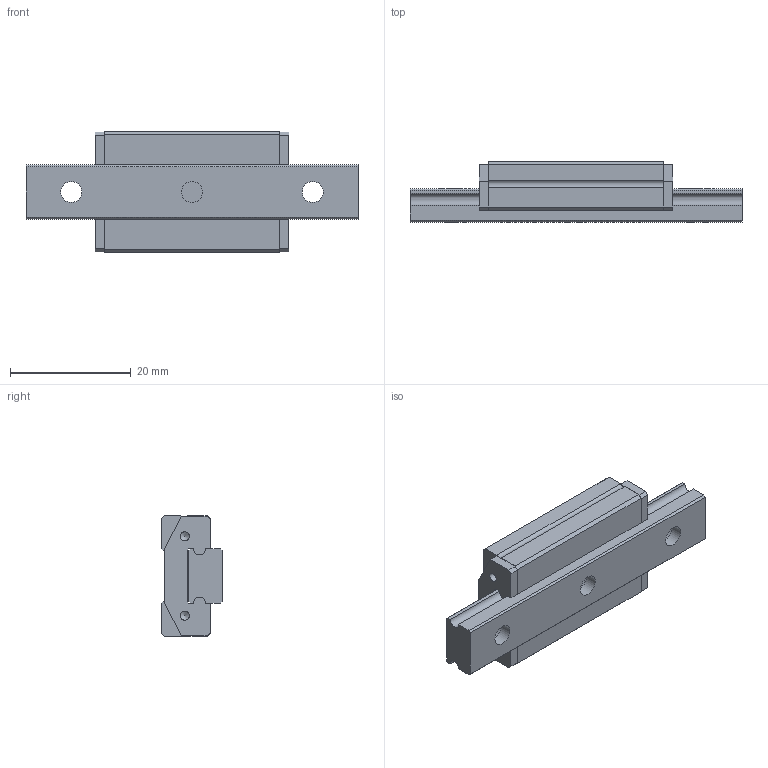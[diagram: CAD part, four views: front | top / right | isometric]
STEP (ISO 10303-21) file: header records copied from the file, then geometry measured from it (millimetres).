
FILE_DESCRIPTION(/* description */ ('STEP AP214'),/* implementation_level */ '2;1');
FILE_NAME(/* name */ 'Minirail 1MNN 9-55-7.5-7.5-G3-V0-(1)',/* time_stamp */ '2025-04-15T09:04:09+02:00',/* author */ ('License CC BY-ND 4.0'),/* organization */ ('CADENAS'),/* preprocessor_version */ 'ST-DEVELOPER v19.3',/* originating_system */ 'PARTsolutions',/* authorisation */ ' ');
FILE_SCHEMA (('AUTOMOTIVE_DESIGN {1 0 10303 214 3 1 1}'));
Length unit declared in the file: millimetre
Products named in the file (4): Minirail 1MNN 9-55-7.5-7.5-G3-V0-(1); Rail 1 MN9-55-7.5-7.5-G3-V0(1); Carriage-MNN9; Wiper-MN9
Assembly tree (4 placements, depth 2):
  Minirail 1MNN 9-55-7.5-7.5-G3-V0-(1)
    Rail 1 MN9-55-7.5-7.5-G3-V0(1)
    Carriage-MNN9
    Wiper-MN9  x2
Bounding box: 55 x 10 x 20 mm (x, y, z)
Volume: 5933.5 mm3; surface area: 5049 mm2
Topology: 4 solids, 4 shells, 125 faces, 320 edges, 210 vertices
Faces by surface type: plane 78, cylinder 31, cone 16
Full cylindrical faces by diameter (mm): 1.5 x4, 2.459 x4, 3.2 x8, 3.5 x3, 6 x3
Entity records: 2813 total; most frequent: DIRECTION 464, CARTESIAN_POINT 464, ORIENTED_EDGE 408, EDGE_CURVE 204, VERTEX_POINT 158, AXIS2_PLACEMENT_3D 158, FACE_BOUND 152, LINE 148
